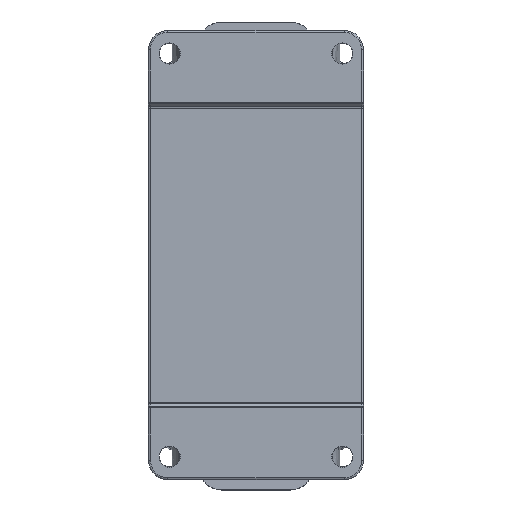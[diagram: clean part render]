
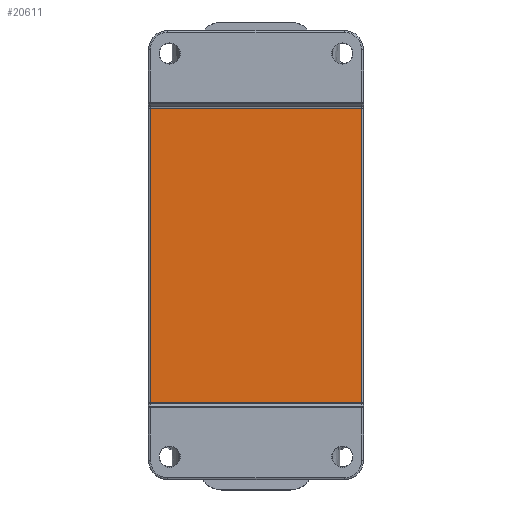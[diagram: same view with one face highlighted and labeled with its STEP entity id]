
A CAD part, front view. The second image highlights one B-rep face of the part: STEP entity #20611.
In plain terms, the highlighted planar face has unit normal (0, -1, 0).
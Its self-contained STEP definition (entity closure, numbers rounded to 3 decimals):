
#111 = VECTOR ( 'NONE', #21837, 1000. ) ;
#1242 = EDGE_CURVE ( 'NONE', #18916, #1923, #12989, .T. ) ;
#1297 = EDGE_LOOP ( 'NONE', ( #10450, #22190, #17267, #21521 ) ) ;
#1624 = LINE ( 'NONE', #17624, #21187 ) ;
#1703 = CARTESIAN_POINT ( 'NONE',  ( 27.5, 1., -38.293 ) ) ;
#1923 = VERTEX_POINT ( 'NONE', #12506 ) ;
#2747 = VERTEX_POINT ( 'NONE', #1703 ) ;
#2974 = LINE ( 'NONE', #16233, #14918 ) ;
#3414 = PLANE ( 'NONE',  #20762 ) ;
#5408 = DIRECTION ( 'NONE',  ( 0., 0., 1. ) ) ;
#6522 = DIRECTION ( 'NONE',  ( 0., 0., 1. ) ) ;
#7105 = EDGE_CURVE ( 'NONE', #12764, #2747, #11798, .T. ) ;
#8882 = CARTESIAN_POINT ( 'NONE',  ( -33.6, 1., -38.5 ) ) ;
#8890 = DIRECTION ( 'NONE',  ( 1., 0., 0. ) ) ;
#10450 = ORIENTED_EDGE ( 'NONE', *, *, #7105, .F. ) ;
#11143 = EDGE_CURVE ( 'NONE', #1923, #12764, #1624, .T. ) ;
#11798 = LINE ( 'NONE', #18357, #111 ) ;
#12128 = CARTESIAN_POINT ( 'NONE',  ( -27.5, 1., -38.293 ) ) ;
#12506 = CARTESIAN_POINT ( 'NONE',  ( -27.5, 1., 38.293 ) ) ;
#12530 = EDGE_CURVE ( 'NONE', #2747, #18916, #2974, .T. ) ;
#12764 = VERTEX_POINT ( 'NONE', #16584 ) ;
#12989 = LINE ( 'NONE', #14098, #21649 ) ;
#14098 = CARTESIAN_POINT ( 'NONE',  ( -27.5, 1., 38.516 ) ) ;
#14918 = VECTOR ( 'NONE', #21297, 1000. ) ;
#16233 = CARTESIAN_POINT ( 'NONE',  ( -33.6, 1., -38.293 ) ) ;
#16584 = CARTESIAN_POINT ( 'NONE',  ( 27.5, 1., 38.293 ) ) ;
#17267 = ORIENTED_EDGE ( 'NONE', *, *, #1242, .F. ) ;
#17474 = DIRECTION ( 'NONE',  ( 0., 1., 0. ) ) ;
#17624 = CARTESIAN_POINT ( 'NONE',  ( -33.6, 1., 38.293 ) ) ;
#18357 = CARTESIAN_POINT ( 'NONE',  ( 27.5, 1., -38.5 ) ) ;
#18916 = VERTEX_POINT ( 'NONE', #12128 ) ;
#20611 = ADVANCED_FACE ( 'NONE', ( #22311 ), #3414, .F. ) ;
#20762 = AXIS2_PLACEMENT_3D ( 'NONE', #8882, #17474, #5408 ) ;
#21187 = VECTOR ( 'NONE', #8890, 1000. ) ;
#21297 = DIRECTION ( 'NONE',  ( -1., 0., 0. ) ) ;
#21521 = ORIENTED_EDGE ( 'NONE', *, *, #12530, .F. ) ;
#21649 = VECTOR ( 'NONE', #6522, 1000. ) ;
#21837 = DIRECTION ( 'NONE',  ( 0., 0., -1. ) ) ;
#22190 = ORIENTED_EDGE ( 'NONE', *, *, #11143, .F. ) ;
#22311 = FACE_OUTER_BOUND ( 'NONE', #1297, .T. ) ;
